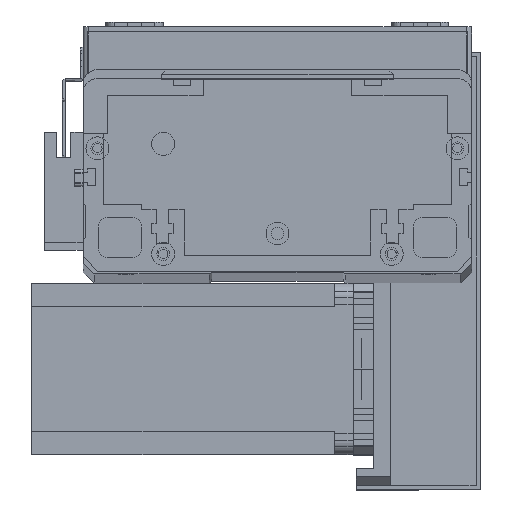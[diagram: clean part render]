
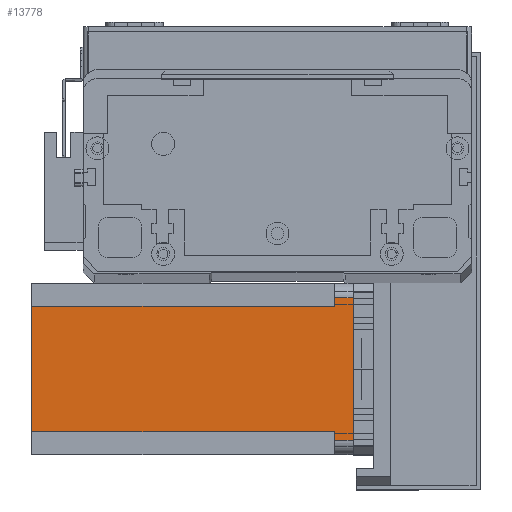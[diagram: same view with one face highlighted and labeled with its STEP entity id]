
A CAD part, top view. The second image highlights one B-rep face of the part: STEP entity #13778.
In plain terms, the highlighted planar face has unit normal (0, 0, 1) as drawn and (0, -1, 0) by its records, which use the part's own axes.
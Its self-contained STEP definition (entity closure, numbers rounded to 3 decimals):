
#168 = CARTESIAN_POINT ( 'NONE',  ( 0., 0., 0. ) ) ;
#584 = LINE ( 'NONE', #14230, #13074 ) ;
#2400 = LINE ( 'NONE', #29478, #26380 ) ;
#2451 = DIRECTION ( 'NONE',  ( -1., 0., 0. ) ) ;
#2995 = ORIENTED_EDGE ( 'NONE', *, *, #26370, .T. ) ;
#3161 = CARTESIAN_POINT ( 'NONE',  ( 52., 0., -6.5 ) ) ;
#3497 = DIRECTION ( 'NONE',  ( 0., -1., 0. ) ) ;
#3597 = ORIENTED_EDGE ( 'NONE', *, *, #8612, .T. ) ;
#3735 = ORIENTED_EDGE ( 'NONE', *, *, #7794, .F. ) ;
#3775 = VERTEX_POINT ( 'NONE', #10476 ) ;
#3818 = DIRECTION ( 'NONE',  ( 0., 0., 1. ) ) ;
#4823 = CARTESIAN_POINT ( 'NONE',  ( 8., 0., -6.5 ) ) ;
#6833 = EDGE_CURVE ( 'NONE', #28781, #21962, #27520, .T. ) ;
#6862 = DIRECTION ( 'NONE',  ( 1., 0., 0. ) ) ;
#7002 = VECTOR ( 'NONE', #6862, 1000. ) ;
#7135 = VERTEX_POINT ( 'NONE', #27987 ) ;
#7282 = VERTEX_POINT ( 'NONE', #3161 ) ;
#7774 = CARTESIAN_POINT ( 'NONE',  ( 8., 0., -6.5 ) ) ;
#7794 = EDGE_CURVE ( 'NONE', #3775, #23937, #28883, .T. ) ;
#8612 = EDGE_CURVE ( 'NONE', #25964, #10058, #2400, .T. ) ;
#9241 = CARTESIAN_POINT ( 'NONE',  ( 52., 0., -6.5 ) ) ;
#9872 = EDGE_CURVE ( 'NONE', #7282, #10058, #14499, .T. ) ;
#10058 = VERTEX_POINT ( 'NONE', #10578 ) ;
#10476 = CARTESIAN_POINT ( 'NONE',  ( 5., 0., 0. ) ) ;
#10578 = CARTESIAN_POINT ( 'NONE',  ( 52., 0., -112.5 ) ) ;
#11368 = FACE_OUTER_BOUND ( 'NONE', #30004, .T. ) ;
#12983 = CARTESIAN_POINT ( 'NONE',  ( 55., 0., 0. ) ) ;
#13074 = VECTOR ( 'NONE', #16567, 1000. ) ;
#13594 = CARTESIAN_POINT ( 'NONE',  ( 5., 0., -112.5 ) ) ;
#13778 = ADVANCED_FACE ( 'NONE', ( #11368 ), #15255, .T. ) ;
#14230 = CARTESIAN_POINT ( 'NONE',  ( 55., 0., -112.5 ) ) ;
#14499 = LINE ( 'NONE', #16496, #15943 ) ;
#15255 = PLANE ( 'NONE',  #19768 ) ;
#15943 = VECTOR ( 'NONE', #18854, 1000. ) ;
#16290 = VECTOR ( 'NONE', #3818, 1000. ) ;
#16487 = ORIENTED_EDGE ( 'NONE', *, *, #27613, .T. ) ;
#16496 = CARTESIAN_POINT ( 'NONE',  ( 52., 0., -112.5 ) ) ;
#16567 = DIRECTION ( 'NONE',  ( 0., 0., 1. ) ) ;
#16625 = VECTOR ( 'NONE', #20412, 1000. ) ;
#18538 = CARTESIAN_POINT ( 'NONE',  ( 5., 0., -6.5 ) ) ;
#18854 = DIRECTION ( 'NONE',  ( 0., 0., -1. ) ) ;
#19485 = LINE ( 'NONE', #9241, #7002 ) ;
#19768 = AXIS2_PLACEMENT_3D ( 'NONE', #26633, #3497, #19932 ) ;
#19932 = DIRECTION ( 'NONE',  ( 0., 0., -1. ) ) ;
#20412 = DIRECTION ( 'NONE',  ( 0., 0., -1. ) ) ;
#20452 = ORIENTED_EDGE ( 'NONE', *, *, #24279, .T. ) ;
#20510 = EDGE_CURVE ( 'NONE', #25964, #28781, #28413, .T. ) ;
#21962 = VERTEX_POINT ( 'NONE', #18538 ) ;
#22751 = LINE ( 'NONE', #13594, #16625 ) ;
#22912 = VECTOR ( 'NONE', #25808, 1000. ) ;
#23638 = CARTESIAN_POINT ( 'NONE',  ( 8., 0., -112.5 ) ) ;
#23937 = VERTEX_POINT ( 'NONE', #12983 ) ;
#23985 = ORIENTED_EDGE ( 'NONE', *, *, #20510, .F. ) ;
#24279 = EDGE_CURVE ( 'NONE', #7135, #23937, #584, .T. ) ;
#24737 = ORIENTED_EDGE ( 'NONE', *, *, #9872, .F. ) ;
#25037 = DIRECTION ( 'NONE',  ( 1., 0., 0. ) ) ;
#25808 = DIRECTION ( 'NONE',  ( 1., 0., 0. ) ) ;
#25964 = VERTEX_POINT ( 'NONE', #23638 ) ;
#26202 = ORIENTED_EDGE ( 'NONE', *, *, #6833, .F. ) ;
#26370 = EDGE_CURVE ( 'NONE', #3775, #21962, #22751, .T. ) ;
#26380 = VECTOR ( 'NONE', #25037, 1000. ) ;
#26633 = CARTESIAN_POINT ( 'NONE',  ( 0., 0., -112.5 ) ) ;
#27520 = LINE ( 'NONE', #4823, #28244 ) ;
#27613 = EDGE_CURVE ( 'NONE', #7282, #7135, #19485, .T. ) ;
#27987 = CARTESIAN_POINT ( 'NONE',  ( 55., 0., -6.5 ) ) ;
#28244 = VECTOR ( 'NONE', #2451, 1000. ) ;
#28413 = LINE ( 'NONE', #29099, #16290 ) ;
#28781 = VERTEX_POINT ( 'NONE', #7774 ) ;
#28883 = LINE ( 'NONE', #168, #22912 ) ;
#29099 = CARTESIAN_POINT ( 'NONE',  ( 8., 0., -112.5 ) ) ;
#29478 = CARTESIAN_POINT ( 'NONE',  ( 0., 0., -112.5 ) ) ;
#30004 = EDGE_LOOP ( 'NONE', ( #16487, #20452, #3735, #2995, #26202, #23985, #3597, #24737 ) ) ;
